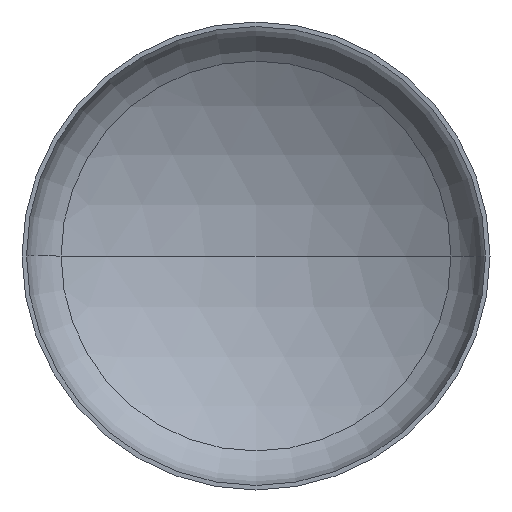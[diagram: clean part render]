
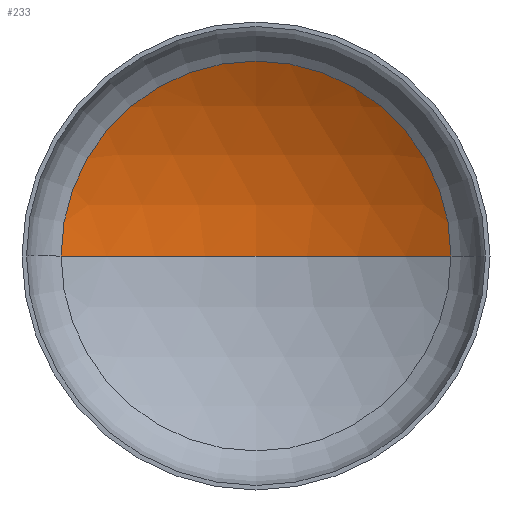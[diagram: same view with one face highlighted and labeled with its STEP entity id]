
A CAD part, front view. The second image highlights one B-rep face of the part: STEP entity #233.
In plain terms, the highlighted spherical face has radius 4000 mm.
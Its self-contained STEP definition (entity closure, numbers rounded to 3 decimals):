
#3 = VERTEX_POINT ( 'NONE', #251 ) ;
#8 = EDGE_LOOP ( 'NONE', ( #59, #68, #39 ) ) ;
#28 = AXIS2_PLACEMENT_3D ( 'NONE', #64, #140, #147 ) ;
#35 = AXIS2_PLACEMENT_3D ( 'NONE', #189, #288, #63 ) ;
#39 = ORIENTED_EDGE ( 'NONE', *, *, #365, .T. ) ;
#43 = VERTEX_POINT ( 'NONE', #221 ) ;
#59 = ORIENTED_EDGE ( 'NONE', *, *, #344, .F. ) ;
#63 = DIRECTION ( 'NONE',  ( 1., 0., 0. ) ) ;
#64 = CARTESIAN_POINT ( 'NONE',  ( 0., -2607.495, 0. ) ) ;
#68 = ORIENTED_EDGE ( 'NONE', *, *, #369, .T. ) ;
#88 = VERTEX_POINT ( 'NONE', #229 ) ;
#102 = AXIS2_PLACEMENT_3D ( 'NONE', #158, #153, #154 ) ;
#116 = AXIS2_PLACEMENT_3D ( 'NONE', #200, #125, #209 ) ;
#125 = DIRECTION ( 'NONE',  ( 0., 0., -1. ) ) ;
#140 = DIRECTION ( 'NONE',  ( 0., 0., -1. ) ) ;
#147 = DIRECTION ( 'NONE',  ( -1., 0., 0. ) ) ;
#153 = DIRECTION ( 'NONE',  ( 0., 0., 1. ) ) ;
#154 = DIRECTION ( 'NONE',  ( 1., 0., 0. ) ) ;
#158 = CARTESIAN_POINT ( 'NONE',  ( 0., -2607.495, 0. ) ) ;
#189 = CARTESIAN_POINT ( 'NONE',  ( 0., 807.359, 0. ) ) ;
#200 = CARTESIAN_POINT ( 'NONE',  ( 0., -2607.495, 0. ) ) ;
#209 = DIRECTION ( 'NONE',  ( -1., 0., 0. ) ) ;
#221 = CARTESIAN_POINT ( 'NONE',  ( 0., 1392.505, 0. ) ) ;
#229 = CARTESIAN_POINT ( 'NONE',  ( 2082.972, 807.359, 0. ) ) ;
#233 = ADVANCED_FACE ( 'NONE', ( #374 ), #259, .F. ) ;
#235 = CIRCLE ( 'NONE', #102, 4000. ) ;
#251 = CARTESIAN_POINT ( 'NONE',  ( -2082.972, 807.359, 0. ) ) ;
#259 = SPHERICAL_SURFACE ( 'NONE', #116, 4000. ) ;
#281 = CIRCLE ( 'NONE', #35, 2082.972 ) ;
#288 = DIRECTION ( 'NONE',  ( 0., -1., 0. ) ) ;
#289 = CIRCLE ( 'NONE', #28, 4000. ) ;
#344 = EDGE_CURVE ( 'NONE', #43, #3, #235, .T. ) ;
#365 = EDGE_CURVE ( 'NONE', #88, #3, #281, .T. ) ;
#369 = EDGE_CURVE ( 'NONE', #43, #88, #289, .T. ) ;
#374 = FACE_OUTER_BOUND ( 'NONE', #8, .T. ) ;
